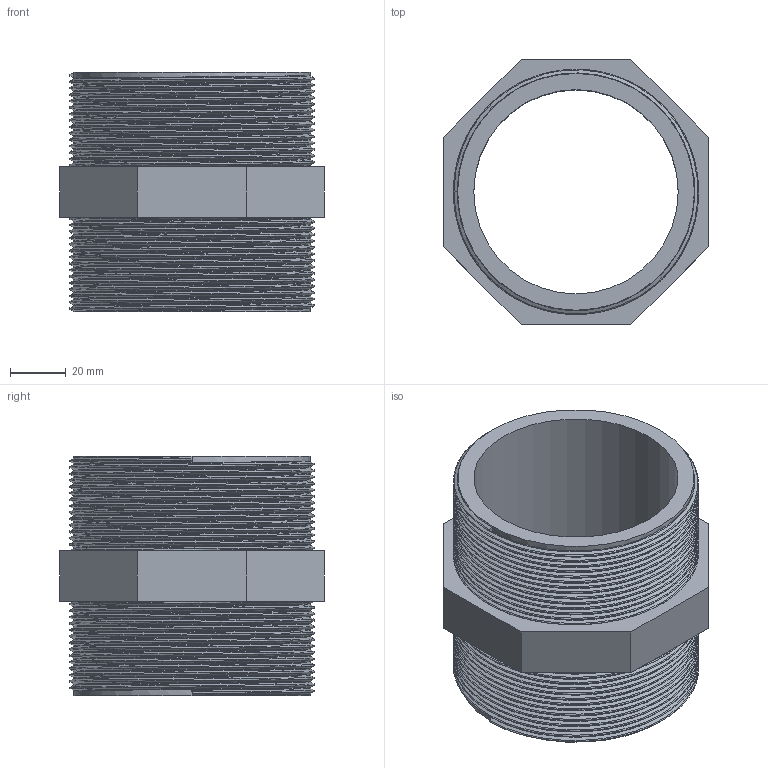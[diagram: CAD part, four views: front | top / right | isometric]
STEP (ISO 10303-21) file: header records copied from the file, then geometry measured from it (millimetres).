
FILE_DESCRIPTION(/* description */ ('PVC-U nipplo filettato BSP'),/* implementation_level */ '2;1');
FILE_NAME(/* name */ 'C:\Users\POLYPIPE\Desktop\DATASET INVENTOR\LIBRERIA EFFAST\RACCORDI 3DxWEB\RER\3D_RERNIE\3D_RERNIE090I.stp',/* time_stamp */ '2018-01-19T16:43:41+01:00',/* author */ ('POLYPIPE'),/* organization */ ('Polypipe Italia s.r.l.'),/* preprocessor_version */ 'ST-DEVELOPER v16.1',/* originating_system */ 'Autodesk Inventor 2016',/* authorisation */ '');
FILE_SCHEMA (('CONFIG_CONTROL_DESIGN'));
Length unit declared in the file: millimetre
Products named in the file (1): 3D_RERNIE
Bounding box: 95 x 95 x 86 mm (x, y, z)
Volume: 169885 mm3; surface area: 62697.1 mm2
Topology: 1 solids, 1 shells, 27 faces, 63 edges, 40 vertices
Faces by surface type: plane 14, bspline 10, cylinder 3
Full cylindrical faces by diameter (mm): 73.3 x1, 84.926 x2
Entity records: 11850 total; most frequent: CARTESIAN_POINT 11272, ORIENTED_EDGE 124, DIRECTION 86, EDGE_CURVE 62, VERTEX_POINT 40, EDGE_LOOP 32, LINE 30, VECTOR 30
